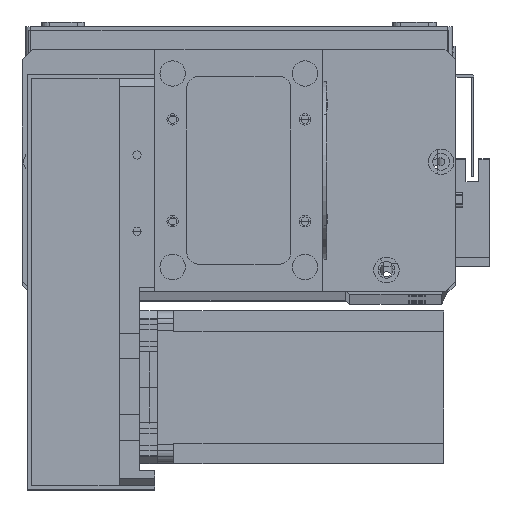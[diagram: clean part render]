
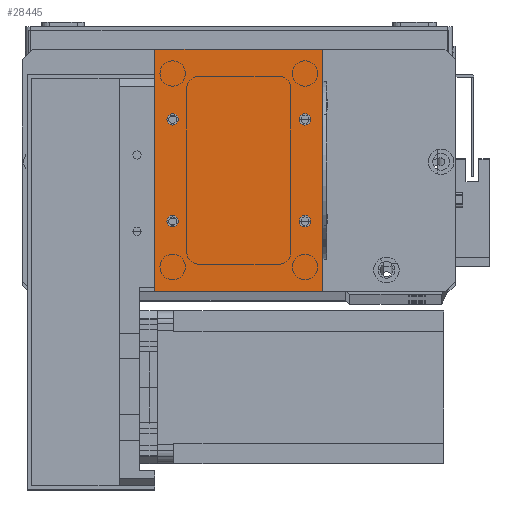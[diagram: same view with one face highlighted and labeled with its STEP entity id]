
A CAD part, top view. The second image highlights one B-rep face of the part: STEP entity #28445.
In plain terms, the highlighted planar face has unit normal (0, 0, 1).
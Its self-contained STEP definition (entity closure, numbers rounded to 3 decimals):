
#207 = CARTESIAN_POINT ( 'NONE',  ( 0., 0., 2. ) ) ;
#507 = CARTESIAN_POINT ( 'NONE',  ( 0., 0., 2. ) ) ;
#729 = CARTESIAN_POINT ( 'NONE',  ( 66., 0., 2. ) ) ;
#789 = ORIENTED_EDGE ( 'NONE', *, *, #5605, .F. ) ;
#822 = VERTEX_POINT ( 'NONE', #3664 ) ;
#826 = AXIS2_PLACEMENT_3D ( 'NONE', #11352, #29470, #13952 ) ;
#1206 = DIRECTION ( 'NONE',  ( 1., 0., 0. ) ) ;
#1288 = CIRCLE ( 'NONE', #28258, 2.25 ) ;
#1843 = VERTEX_POINT ( 'NONE', #29653 ) ;
#1995 = CARTESIAN_POINT ( 'NONE',  ( 56.75, 67.5, 2. ) ) ;
#2975 = FACE_BOUND ( 'NONE', #8274, .T. ) ;
#3664 = CARTESIAN_POINT ( 'NONE',  ( 0., 95., 2. ) ) ;
#4652 = CIRCLE ( 'NONE', #17981, 2.25 ) ;
#4688 = ORIENTED_EDGE ( 'NONE', *, *, #32995, .F. ) ;
#5252 = CARTESIAN_POINT ( 'NONE',  ( 0., 0., 2. ) ) ;
#5422 = DIRECTION ( 'NONE',  ( 0., 0., 1. ) ) ;
#5605 = EDGE_CURVE ( 'NONE', #15326, #1843, #4652, .T. ) ;
#7295 = CARTESIAN_POINT ( 'NONE',  ( 4.75, 67.5, 2. ) ) ;
#7978 = DIRECTION ( 'NONE',  ( -1., 0., 0. ) ) ;
#8258 = FACE_BOUND ( 'NONE', #23948, .T. ) ;
#8274 = EDGE_LOOP ( 'NONE', ( #4688, #14696 ) ) ;
#8482 = CIRCLE ( 'NONE', #24912, 2.25 ) ;
#8617 = AXIS2_PLACEMENT_3D ( 'NONE', #26232, #10698, #28825 ) ;
#8949 = DIRECTION ( 'NONE',  ( 0., 0., 1. ) ) ;
#9538 = CARTESIAN_POINT ( 'NONE',  ( 66., 0., 2. ) ) ;
#9563 = DIRECTION ( 'NONE',  ( 0., 0., 1. ) ) ;
#9579 = EDGE_CURVE ( 'NONE', #28947, #24331, #25562, .T. ) ;
#10376 = ORIENTED_EDGE ( 'NONE', *, *, #20918, .T. ) ;
#10506 = DIRECTION ( 'NONE',  ( 0., 0., -1. ) ) ;
#10597 = VERTEX_POINT ( 'NONE', #1995 ) ;
#10698 = DIRECTION ( 'NONE',  ( 0., 0., 1. ) ) ;
#10896 = CARTESIAN_POINT ( 'NONE',  ( 0., 0., 2. ) ) ;
#10977 = CARTESIAN_POINT ( 'NONE',  ( 9.25, 67.5, 2. ) ) ;
#11352 = CARTESIAN_POINT ( 'NONE',  ( 59., 27.5, 2. ) ) ;
#11399 = ORIENTED_EDGE ( 'NONE', *, *, #20902, .T. ) ;
#11622 = CIRCLE ( 'NONE', #17377, 2.25 ) ;
#11779 = DIRECTION ( 'NONE',  ( 0., 0., 1. ) ) ;
#11866 = AXIS2_PLACEMENT_3D ( 'NONE', #20984, #5422, #23592 ) ;
#11903 = EDGE_CURVE ( 'NONE', #10597, #29760, #11622, .T. ) ;
#12540 = EDGE_LOOP ( 'NONE', ( #11399, #10376, #15392, #27919 ) ) ;
#12680 = DIRECTION ( 'NONE',  ( 0., 0., 1. ) ) ;
#13047 = VERTEX_POINT ( 'NONE', #9538 ) ;
#13658 = VERTEX_POINT ( 'NONE', #30693 ) ;
#13952 = DIRECTION ( 'NONE',  ( 1., 0., 0. ) ) ;
#14696 = ORIENTED_EDGE ( 'NONE', *, *, #29949, .F. ) ;
#15115 = VERTEX_POINT ( 'NONE', #5252 ) ;
#15283 = EDGE_LOOP ( 'NONE', ( #789, #31084 ) ) ;
#15326 = VERTEX_POINT ( 'NONE', #16501 ) ;
#15349 = CIRCLE ( 'NONE', #32062, 2.25 ) ;
#15357 = EDGE_CURVE ( 'NONE', #29760, #10597, #15349, .T. ) ;
#15392 = ORIENTED_EDGE ( 'NONE', *, *, #26002, .T. ) ;
#15762 = CARTESIAN_POINT ( 'NONE',  ( 61.25, 67.5, 2. ) ) ;
#15960 = FACE_BOUND ( 'NONE', #15283, .T. ) ;
#16337 = LINE ( 'NONE', #26082, #22418 ) ;
#16501 = CARTESIAN_POINT ( 'NONE',  ( 61.25, 27.5, 2. ) ) ;
#16638 = CARTESIAN_POINT ( 'NONE',  ( 4.75, 27.5, 2. ) ) ;
#16725 = DIRECTION ( 'NONE',  ( 0., 0., 1. ) ) ;
#17012 = EDGE_LOOP ( 'NONE', ( #18075, #24172 ) ) ;
#17368 = CIRCLE ( 'NONE', #826, 2.25 ) ;
#17377 = AXIS2_PLACEMENT_3D ( 'NONE', #25110, #9563, #27672 ) ;
#17655 = AXIS2_PLACEMENT_3D ( 'NONE', #207, #10506, #20939 ) ;
#17981 = AXIS2_PLACEMENT_3D ( 'NONE', #27288, #11779, #29906 ) ;
#18075 = ORIENTED_EDGE ( 'NONE', *, *, #26362, .F. ) ;
#20902 = EDGE_CURVE ( 'NONE', #822, #15115, #27809, .T. ) ;
#20918 = EDGE_CURVE ( 'NONE', #15115, #13047, #28627, .T. ) ;
#20939 = DIRECTION ( 'NONE',  ( -1., 0., 0. ) ) ;
#20957 = VECTOR ( 'NONE', #21224, 1000. ) ;
#20984 = CARTESIAN_POINT ( 'NONE',  ( 7., 27.5, 2. ) ) ;
#21224 = DIRECTION ( 'NONE',  ( 0., -1., 0. ) ) ;
#21797 = ORIENTED_EDGE ( 'NONE', *, *, #15357, .F. ) ;
#22046 = FACE_OUTER_BOUND ( 'NONE', #12540, .T. ) ;
#22056 = ORIENTED_EDGE ( 'NONE', *, *, #11903, .F. ) ;
#22418 = VECTOR ( 'NONE', #7978, 1000. ) ;
#23592 = DIRECTION ( 'NONE',  ( 1., 0., 0. ) ) ;
#23948 = EDGE_LOOP ( 'NONE', ( #21797, #22056 ) ) ;
#24062 = DIRECTION ( 'NONE',  ( 0., 1., 0. ) ) ;
#24172 = ORIENTED_EDGE ( 'NONE', *, *, #9579, .F. ) ;
#24331 = VERTEX_POINT ( 'NONE', #10977 ) ;
#24460 = CARTESIAN_POINT ( 'NONE',  ( 7., 27.5, 2. ) ) ;
#24772 = VERTEX_POINT ( 'NONE', #16638 ) ;
#24912 = AXIS2_PLACEMENT_3D ( 'NONE', #28181, #12680, #30809 ) ;
#25110 = CARTESIAN_POINT ( 'NONE',  ( 59., 67.5, 2. ) ) ;
#25128 = VECTOR ( 'NONE', #24062, 1000. ) ;
#25562 = CIRCLE ( 'NONE', #8617, 2.25 ) ;
#26002 = EDGE_CURVE ( 'NONE', #13047, #33010, #32815, .T. ) ;
#26082 = CARTESIAN_POINT ( 'NONE',  ( 0., 95., 2. ) ) ;
#26232 = CARTESIAN_POINT ( 'NONE',  ( 7., 67.5, 2. ) ) ;
#26362 = EDGE_CURVE ( 'NONE', #24331, #28947, #8482, .T. ) ;
#27019 = VECTOR ( 'NONE', #31612, 1000. ) ;
#27059 = DIRECTION ( 'NONE',  ( 1., 0., 0. ) ) ;
#27288 = CARTESIAN_POINT ( 'NONE',  ( 59., 27.5, 2. ) ) ;
#27672 = DIRECTION ( 'NONE',  ( 1., 0., 0. ) ) ;
#27809 = LINE ( 'NONE', #507, #20957 ) ;
#27919 = ORIENTED_EDGE ( 'NONE', *, *, #29130, .T. ) ;
#28181 = CARTESIAN_POINT ( 'NONE',  ( 7., 67.5, 2. ) ) ;
#28258 = AXIS2_PLACEMENT_3D ( 'NONE', #24460, #8949, #27059 ) ;
#28445 = ADVANCED_FACE ( 'NONE', ( #28899, #8258, #15960, #2975, #22046 ), #31221, .F. ) ;
#28627 = LINE ( 'NONE', #10896, #27019 ) ;
#28769 = CARTESIAN_POINT ( 'NONE',  ( 66., 95., 2. ) ) ;
#28825 = DIRECTION ( 'NONE',  ( 1., 0., 0. ) ) ;
#28899 = FACE_BOUND ( 'NONE', #17012, .T. ) ;
#28947 = VERTEX_POINT ( 'NONE', #7295 ) ;
#29130 = EDGE_CURVE ( 'NONE', #33010, #822, #16337, .T. ) ;
#29470 = DIRECTION ( 'NONE',  ( 0., 0., 1. ) ) ;
#29653 = CARTESIAN_POINT ( 'NONE',  ( 56.75, 27.5, 2. ) ) ;
#29760 = VERTEX_POINT ( 'NONE', #15762 ) ;
#29906 = DIRECTION ( 'NONE',  ( 1., 0., 0. ) ) ;
#29949 = EDGE_CURVE ( 'NONE', #24772, #13658, #1288, .T. ) ;
#30693 = CARTESIAN_POINT ( 'NONE',  ( 9.25, 27.5, 2. ) ) ;
#30809 = DIRECTION ( 'NONE',  ( 1., 0., 0. ) ) ;
#31084 = ORIENTED_EDGE ( 'NONE', *, *, #33154, .F. ) ;
#31221 = PLANE ( 'NONE',  #17655 ) ;
#31612 = DIRECTION ( 'NONE',  ( 1., 0., 0. ) ) ;
#32062 = AXIS2_PLACEMENT_3D ( 'NONE', #32186, #16725, #1206 ) ;
#32186 = CARTESIAN_POINT ( 'NONE',  ( 59., 67.5, 2. ) ) ;
#32729 = CIRCLE ( 'NONE', #11866, 2.25 ) ;
#32815 = LINE ( 'NONE', #729, #25128 ) ;
#32995 = EDGE_CURVE ( 'NONE', #13658, #24772, #32729, .T. ) ;
#33010 = VERTEX_POINT ( 'NONE', #28769 ) ;
#33154 = EDGE_CURVE ( 'NONE', #1843, #15326, #17368, .T. ) ;
